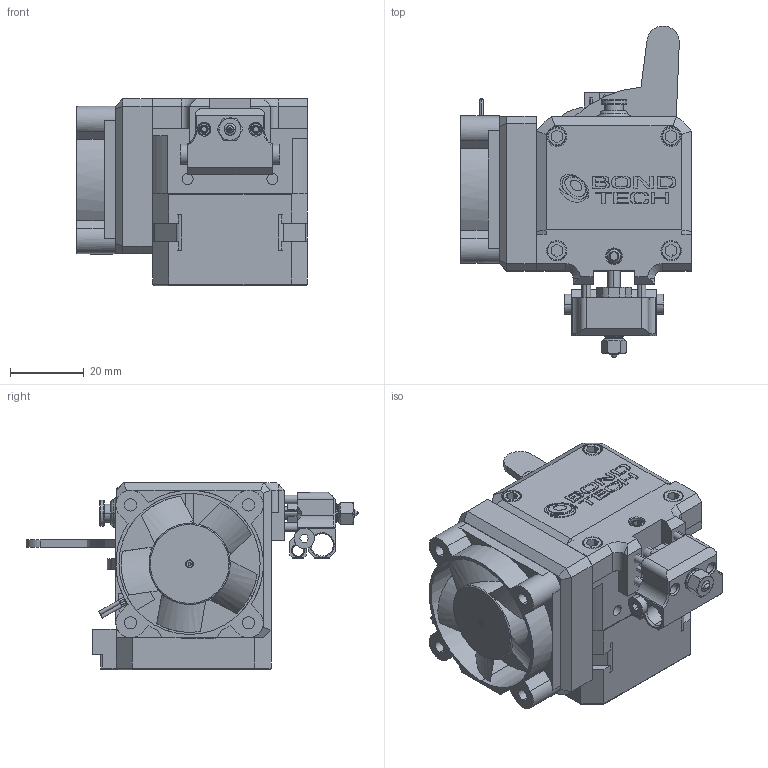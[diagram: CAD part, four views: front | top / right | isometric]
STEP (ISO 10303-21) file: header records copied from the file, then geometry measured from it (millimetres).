
FILE_DESCRIPTION (( 'STEP AP214' ), '1' );
FILE_NAME ('LGX Shortcut Mosquito LH.STEP', '2022-06-08T07:08:15', ( '' ), ( '' ), 'SwSTEP 2.0', 'SolidWorks 2022', '' );
FILE_SCHEMA (( 'AUTOMOTIVE_DESIGN' ));
Length unit declared in the file: millimetre
Products named in the file (1): LGX Shortcut Mosquito LH
Bounding box: 62.6 x 90.08 x 50.95 mm (x, y, z)
Surface area: 32054.2 mm2 (no closed solid volume)
Topology: 0 solids, 19 shells, 914 faces, 2346 edges, 1506 vertices
Faces by surface type: plane 469, cylinder 216, bspline 108, cone 69, torus 50, sphere 2
Entity records: 31146 total; most frequent: CARTESIAN_POINT 10000, ORIENTED_EDGE 4626, DIRECTION 3809, EDGE_CURVE 2336, VERTEX_POINT 1506, AXIS2_PLACEMENT_3D 1284, LINE 1241, VECTOR 1241
